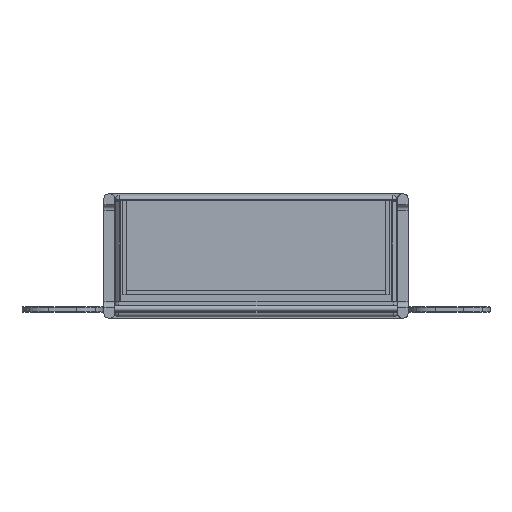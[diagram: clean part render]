
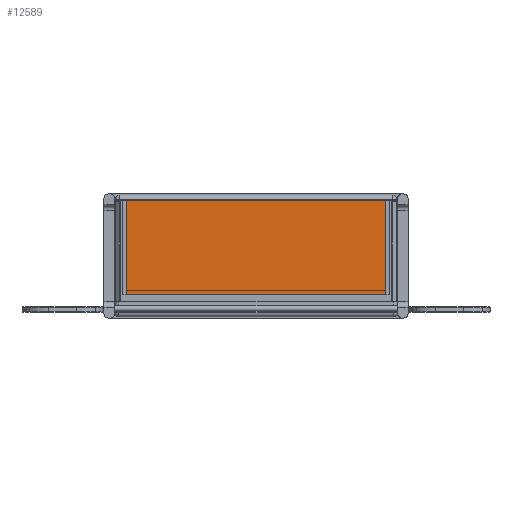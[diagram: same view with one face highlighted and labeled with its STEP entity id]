
A CAD part, front view. The second image highlights one B-rep face of the part: STEP entity #12589.
In plain terms, the highlighted planar face has unit normal (0, -1, 0).
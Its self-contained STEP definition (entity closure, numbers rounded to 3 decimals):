
#221 = DIRECTION ( 'NONE',  ( -1., 0., 0. ) ) ;
#622 = VERTEX_POINT ( 'NONE', #12679 ) ;
#913 = EDGE_CURVE ( 'NONE', #6371, #622, #4333, .T. ) ;
#1219 = LINE ( 'NONE', #12916, #9312 ) ;
#1739 = DIRECTION ( 'NONE',  ( -1., 0., 0. ) ) ;
#2106 = VERTEX_POINT ( 'NONE', #4989 ) ;
#2521 = DIRECTION ( 'NONE',  ( 0., 0., -1. ) ) ;
#2595 = LINE ( 'NONE', #4959, #11881 ) ;
#2974 = EDGE_CURVE ( 'NONE', #11648, #2106, #1219, .T. ) ;
#3099 = ORIENTED_EDGE ( 'NONE', *, *, #6794, .F. ) ;
#4053 = EDGE_LOOP ( 'NONE', ( #6323, #5589, #3099, #14726 ) ) ;
#4333 = LINE ( 'NONE', #14646, #8407 ) ;
#4400 = DIRECTION ( 'NONE',  ( 0., 1., 0. ) ) ;
#4602 = AXIS2_PLACEMENT_3D ( 'NONE', #9062, #4400, #12657 ) ;
#4959 = CARTESIAN_POINT ( 'NONE',  ( 474., 700., -139. ) ) ;
#4989 = CARTESIAN_POINT ( 'NONE',  ( -474., 700., -139. ) ) ;
#5589 = ORIENTED_EDGE ( 'NONE', *, *, #913, .T. ) ;
#5731 = DIRECTION ( 'NONE',  ( 0., 0., 1. ) ) ;
#6323 = ORIENTED_EDGE ( 'NONE', *, *, #10643, .F. ) ;
#6371 = VERTEX_POINT ( 'NONE', #12548 ) ;
#6718 = CARTESIAN_POINT ( 'NONE',  ( -474., 700., -139. ) ) ;
#6794 = EDGE_CURVE ( 'NONE', #2106, #622, #9015, .T. ) ;
#7870 = CARTESIAN_POINT ( 'NONE',  ( 474., 700., -139. ) ) ;
#8407 = VECTOR ( 'NONE', #1739, 1000. ) ;
#9015 = LINE ( 'NONE', #6718, #14512 ) ;
#9062 = CARTESIAN_POINT ( 'NONE',  ( 446.834, 700., 150. ) ) ;
#9312 = VECTOR ( 'NONE', #221, 1000. ) ;
#10271 = FACE_OUTER_BOUND ( 'NONE', #4053, .T. ) ;
#10643 = EDGE_CURVE ( 'NONE', #6371, #11648, #2595, .T. ) ;
#11648 = VERTEX_POINT ( 'NONE', #7870 ) ;
#11881 = VECTOR ( 'NONE', #2521, 1000. ) ;
#12548 = CARTESIAN_POINT ( 'NONE',  ( 474., 700., 200. ) ) ;
#12589 = ADVANCED_FACE ( 'NONE', ( #10271 ), #12808, .F. ) ;
#12657 = DIRECTION ( 'NONE',  ( 0., 0., 1. ) ) ;
#12679 = CARTESIAN_POINT ( 'NONE',  ( -474., 700., 200. ) ) ;
#12808 = PLANE ( 'NONE',  #4602 ) ;
#12916 = CARTESIAN_POINT ( 'NONE',  ( -474., 700., -139. ) ) ;
#14512 = VECTOR ( 'NONE', #5731, 1000. ) ;
#14646 = CARTESIAN_POINT ( 'NONE',  ( 0., 700., 200. ) ) ;
#14726 = ORIENTED_EDGE ( 'NONE', *, *, #2974, .F. ) ;
